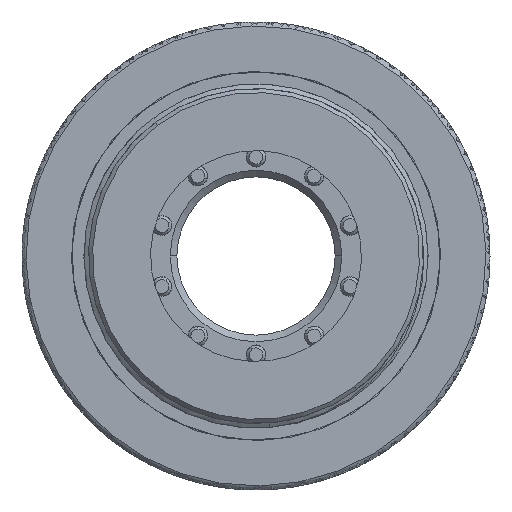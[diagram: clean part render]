
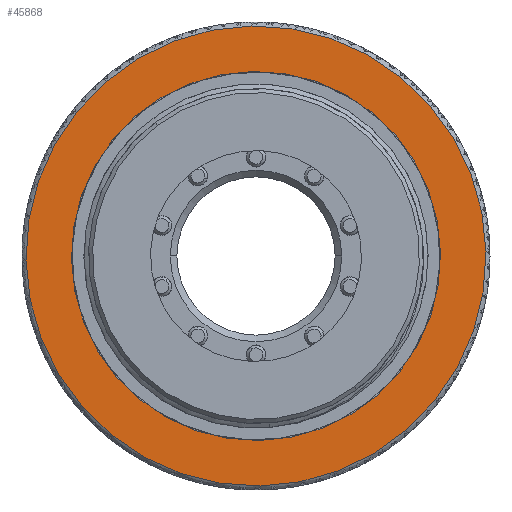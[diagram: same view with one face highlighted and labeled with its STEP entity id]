
A CAD part, front view. The second image highlights one B-rep face of the part: STEP entity #45868.
In plain terms, the highlighted planar face has unit normal (0, -1, 0).
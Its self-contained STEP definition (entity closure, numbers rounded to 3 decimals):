
#16387=CARTESIAN_POINT('',(0.,0.,0.));
#16388=DIRECTION('',(0.,1.,0.));
#16389=DIRECTION('',(-1.,0.,0.));
#16390=AXIS2_PLACEMENT_3D('',#16387,#16388,#16389);
#16392=CARTESIAN_POINT('',(0.,0.,0.));
#16393=DIRECTION('',(0.,1.,0.));
#16394=DIRECTION('',(1.,0.,0.));
#16395=AXIS2_PLACEMENT_3D('',#16392,#16393,#16394);
#16397=CARTESIAN_POINT('',(0.,0.,0.));
#16398=DIRECTION('',(0.,1.,0.));
#16399=DIRECTION('',(1.,0.,0.));
#16400=AXIS2_PLACEMENT_3D('',#16397,#16398,#16399);
#16402=CARTESIAN_POINT('',(0.,0.,0.));
#16403=DIRECTION('',(0.,1.,0.));
#16404=DIRECTION('',(-1.,0.,0.));
#16405=AXIS2_PLACEMENT_3D('',#16402,#16403,#16404);
#43166=CARTESIAN_POINT('',(-14.,0.,0.));
#43167=CARTESIAN_POINT('',(14.,0.,0.));
#43168=VERTEX_POINT('',#43166);
#43169=VERTEX_POINT('',#43167);
#45227=CARTESIAN_POINT('',(17.45,0.,0.));
#45228=CARTESIAN_POINT('',(-17.45,0.,0.));
#45229=VERTEX_POINT('',#45227);
#45230=VERTEX_POINT('',#45228);
#45851=CARTESIAN_POINT('',(0.,0.,0.));
#45852=DIRECTION('',(0.,1.,0.));
#45853=DIRECTION('',(0.,0.,-1.));
#45854=AXIS2_PLACEMENT_3D('',#45851,#45852,#45853);
#45855=PLANE('',#45854);
#45857=ORIENTED_EDGE('',*,*,#45856,.T.);
#45859=ORIENTED_EDGE('',*,*,#45858,.T.);
#45860=EDGE_LOOP('',(#45857,#45859));
#45861=FACE_OUTER_BOUND('',#45860,.F.);
#45863=ORIENTED_EDGE('',*,*,#45862,.F.);
#45865=ORIENTED_EDGE('',*,*,#45864,.F.);
#45866=EDGE_LOOP('',(#45863,#45865));
#45867=FACE_BOUND('',#45866,.F.);
#45868=ADVANCED_FACE('',(#45861,#45867),#45855,.F.);
#16391=CIRCLE('',#16390,14.);
#16396=CIRCLE('',#16395,14.);
#16401=CIRCLE('',#16400,17.45);
#16406=CIRCLE('',#16405,17.45);
#45856=EDGE_CURVE('',#45229,#45230,#16401,.T.);
#45858=EDGE_CURVE('',#45230,#45229,#16406,.T.);
#45862=EDGE_CURVE('',#43168,#43169,#16391,.T.);
#45864=EDGE_CURVE('',#43169,#43168,#16396,.T.);
